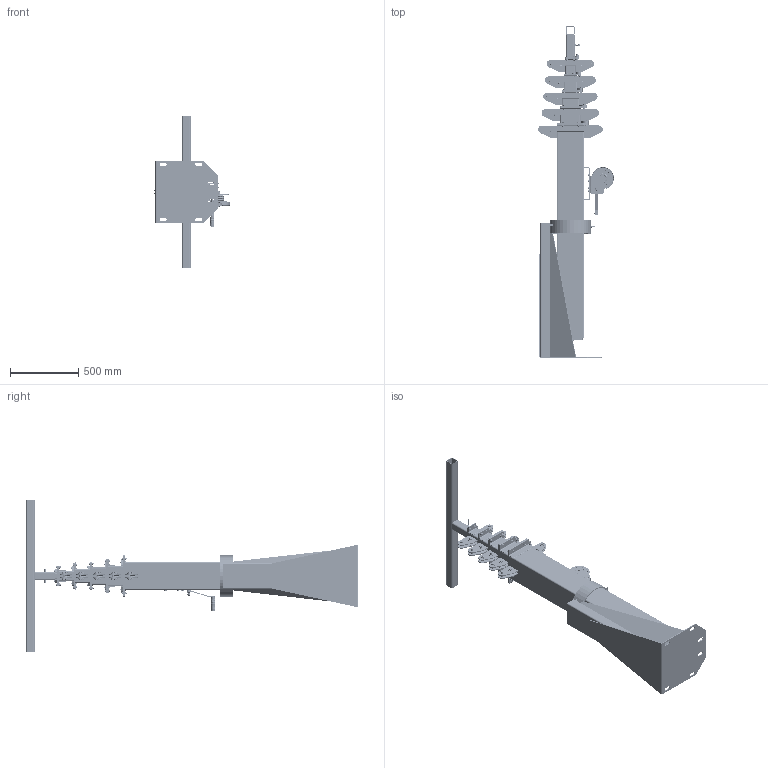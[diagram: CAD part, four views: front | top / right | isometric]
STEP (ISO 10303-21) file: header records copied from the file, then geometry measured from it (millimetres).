
FILE_DESCRIPTION (( 'STEP AP214' ), '1' );
FILE_NAME ('LM-28-8-6S-FM.STEP', '2018-05-03T22:06:05', ( '' ), ( '' ), 'SwSTEP 2.0', 'SolidWorks 2016', '' );
FILE_SCHEMA (( 'AUTOMOTIVE_DESIGN' ));
Length unit declared in the file: inch
Products named in the file (107): 404163 Pressure Washer; 6S Stage 3 Assembly_LM-28-8; 3in to 4in Bottom; 205033 Lock Nut  1; CM Large Pulley Bracket; 5-6 c-ring; 404164 Ratchet wheel; 2 to 3 End Cap Assembly; 204364 Spring; hex nut_ai_HNUT 0.7500-10-D-N; 2x2 Angle End Cap Mount_8in; 2x2 Angle End Cap Mount_5in; 204362 Pressure Plate; hex bolt_ai_HBOLT 0.3125-18x1.125x0.875-N; 204360 Space Washer; flat washer type b regular_ai_Regular FW 0.75; Bottom Cap Assembly_8in; 6S Stage 3 - 5x5_LM-28-8; 205116 E-Ring 5; 204807 Steel Spacer; hex bolt_ai_HBOLT 0.7500-10x3x1.75-N; 6S Stage 2 Assembly_LM-28-8; 204012 Bushing; hex bolt_ai_HBOLT 0.3125-18x1.5x0.875-N; Reel Assembly; T Handle_.3125; Bottom Cap_8in; 6-8 c-ring; Drive Shaft Assembly; 2in to 3in Top; 204834 2.2 Reel Hub; T Head; 6S Stage 1 - 8x8_LM-28-8-FM; 2x2 Angle End Cap Mount_6in; 404842 Toothgear 10; 2in to 3in Bottom; 404862 54 Tooth Gear; T Head_Default<As Machined>; 18x18 6S-FM Base_FM Short Base; 6S Stage 2 - 6x6_LM-28-8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
Assembly tree (278 placements, depth 6):
  LM-28-8-6S-FM
    18x18 6S-FM Base_FM Short Base
      18x18 5S Base Plate
      6S Outside C-Channel_FM Short
      6S-FM Base Gusset  x2
      5S Outer Ring_11.5 ID
      18x18 FM 12in Ring Holder
      18x18 FM 12in Mast Support
      hex nut_ai_HNUT 0.3125-18-D-N
    6S Mast Assembly_LM-28-8-FM
      6S Stage 1 Assembly_LM-28-8-FM
        6S Stage 1 - 8x8_LM-28-8-FM
        Bottom Cap Assembly_8in
          Bottom Cap_8in
          hex bolt_ai_HBOLT 0.7500-10x3x1.75-N
        2x2 Angle End Cap Mount_8in  x2
        3.5in Pulley Bracket Assembly  x2
          CM Large Pulley Bracket
          flat washer type b regular_ai_Regular FW 0.5
          hex nut_ai_HNUT 0.5000-13-D-N
          hex bolt_ai_HBOLT 0.5000-13x2x1.25-N
          Large Pulley
        3.5in Pulley Bracket Assembly_Opposite
          CM Large Pulley Bracket  x2
          flat washer type b regular_ai_Regular FW 0.5  x4
          hex nut_ai_HNUT 0.5000-13-D-N  x2
          hex bolt_ai_HBOLT 0.5000-13x2x1.25-N  x2
          Large Pulley
        4in Winch Bracket 6 Hole
          4in Winch Bracket 6 Hole
          hex nut_ai_HNUT 0.3125-18-D-N  x6
        DLB1200A
          404896 Base
          Drive Shaft Assembly
            404156 Drive Shaft
            404165 Washer
            206552 Space Washer
            404842 Toothgear 10  x4
          204012 Bushing
          205116 E-Ring 5
          204362 Pressure Plate
          404164 Ratchet wheel
          404163 Pressure Washer
          206328 Bushing
          404162 Handle Hub with handle
          204005 Crank Handle Pin
          204004 Handle Sleeve
          205167 Ratchet Bolt
          205055 Flat Washer
          404409 Ratchet Pawl
          404166 Ratchet Spacer
          204803 Lock Nut 3.8 16  x2
          Reel Assembly
            404185 Reel Hub
            404453 Side Plate Reel
            404298 Side Plate Gear
            404862 54 Tooth Gear  x2
            204834 2.2 Reel Hub
          204807 Steel Spacer
          204360 Space Washer  x2
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Bounding box: 556.85 x 2438.4 x 1117.6 mm (x, y, z)
Volume: 33651801.4 mm3; surface area: 14540118.1 mm2
Topology: 345 solids, 348 shells, 7692 faces, 19051 edges, 12112 vertices
Faces by surface type: cylinder 3613, plane 2349, cone 1547, bspline 183
Entity records: 163448 total; most frequent: CARTESIAN_POINT 64463, DIRECTION 16070, ORIENTED_EDGE 15045, EDGE_CURVE 7543, AXIS2_PLACEMENT_3D 6337, VERTEX_POINT 4939, LINE 3396, VECTOR 3396
